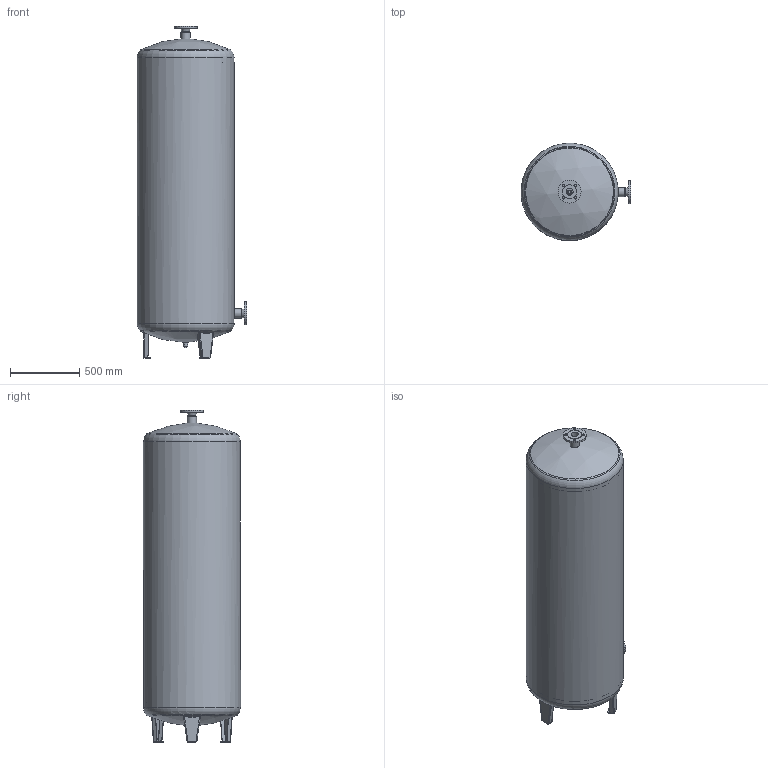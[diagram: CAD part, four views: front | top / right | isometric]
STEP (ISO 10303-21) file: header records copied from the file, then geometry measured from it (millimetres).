
FILE_DESCRIPTION((''),'2;1');
FILE_NAME('C:\Vault\Inventor\Expansion\elko-mat\EV\EV 750\EV750-10-110.stp','2012-06-11T14:24:57',('Walder'),(''),'Autodesk Inventor 11','Autodesk Inventor 11','');
FILE_SCHEMA(('AUTOMOTIVE_DESIGN { 1 0 10303 214 1 1 1 1 }'));
Length unit declared in the file: millimetre
Products named in the file (1): EV750-10-110
Bounding box: 791.48 x 699.12 x 2391 mm (x, y, z)
Volume: 29796791.2 mm3; surface area: 10589982.3 mm2
Topology: 5 solids, 5 shells, 191 faces, 440 edges, 276 vertices
Faces by surface type: plane 100, cylinder 60, bspline 17, cone 6, torus 5, sphere 3
Full cylindrical faces by diameter (mm): 18 x8, 20.96 x1, 24.117 x1, 32 x1, 51.2 x2, 57 x1, 59.61 x1, 66.5 x2, 102 x2, 165 x2, 684 x2, 700 x1
Entity records: 5888 total; most frequent: CARTESIAN_POINT 1713, DIRECTION 842, ORIENTED_EDGE 784, EDGE_CURVE 392, AXIS2_PLACEMENT_3D 307, EDGE_LOOP 278, VERTEX_POINT 272, VECTOR 228
